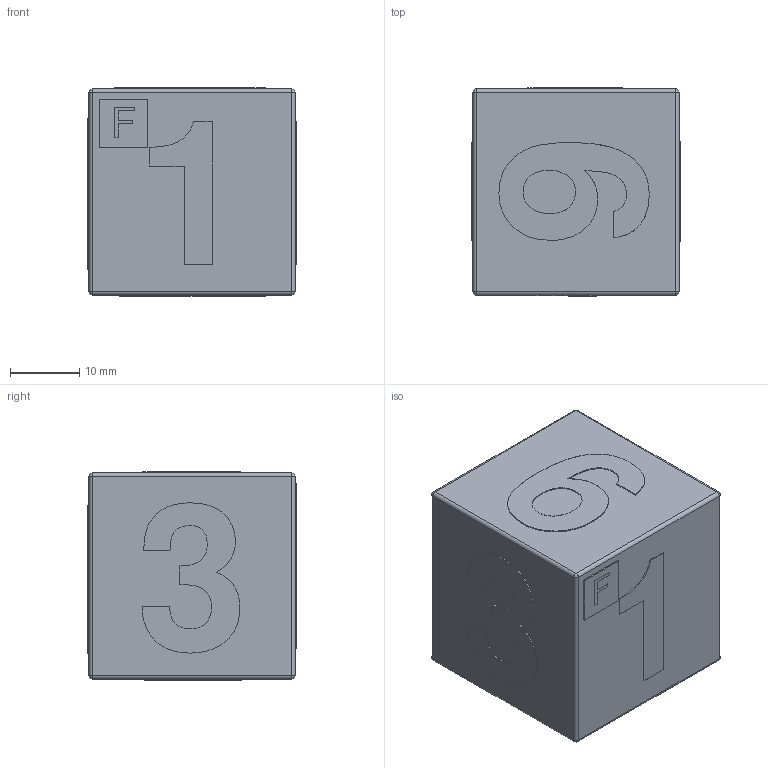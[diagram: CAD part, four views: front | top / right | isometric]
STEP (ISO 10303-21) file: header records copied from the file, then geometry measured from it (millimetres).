
FILE_DESCRIPTION(('Open CASCADE Model'),'2;1');
FILE_NAME('Open CASCADE Shape Model','2025-09-14T20:47:13',('Author'),( 'Open CASCADE'),'Open CASCADE STEP processor 7.8','Open CASCADE 7.8' ,'Unknown');
FILE_SCHEMA(('AUTOMOTIVE_DESIGN { 1 0 10303 214 1 1 1 1 }'));
Length unit declared in the file: millimetre
Products named in the file (20): 9be8c55c-91a3-11f0-88d2-1c1b0deae66b; 9be8c70a-91a3-11f0-88d2-1c1b0deae66b; 9be8c70a-91a3-11f0-88d2-1c1b0deae66b_part; 9beba420-91a3-11f0-88d2-1c1b0deae66b; 9beba420-91a3-11f0-88d2-1c1b0deae66b_part; 9becfbb8-91a3-11f0-88d2-1c1b0deae66b; 9becfbb8-91a3-11f0-88d2-1c1b0deae66b_part; 9bee8dc0-91a3-11f0-88d2-1c1b0deae66b; 9bee8dc0-91a3-11f0-88d2-1c1b0deae66b_part; 9bf0524a-91a3-11f0-88d2-1c1b0deae66b; 9bf0524a-91a3-11f0-88d2-1c1b0deae66b_part; 9bf2147c-91a3-11f0-88d2-1c1b0deae66b; 9bf2147c-91a3-11f0-88d2-1c1b0deae66b_part; 9bf3880c-91a3-11f0-88d2-1c1b0deae66b; 9bf3880c-91a3-11f0-88d2-1c1b0deae66b_part; 9bf6e63c-91a3-11f0-88d2-1c1b0deae66b; 9bf6e63c-91a3-11f0-88d2-1c1b0deae66b_part; 9bf6e768-91a3-11f0-88d2-1c1b0deae66b; 9bf6e768-91a3-11f0-88d2-1c1b0deae66b_part
Assembly tree (19 placements, depth 4):
  9be8c55c-91a3-11f0-88d2-1c1b0deae66b
    9be8c55c-91a3-11f0-88d2-1c1b0deae66b
      9be8c70a-91a3-11f0-88d2-1c1b0deae66b
        9be8c70a-91a3-11f0-88d2-1c1b0deae66b_part
      9beba420-91a3-11f0-88d2-1c1b0deae66b
        9beba420-91a3-11f0-88d2-1c1b0deae66b_part
      9becfbb8-91a3-11f0-88d2-1c1b0deae66b
        9becfbb8-91a3-11f0-88d2-1c1b0deae66b_part
      9bee8dc0-91a3-11f0-88d2-1c1b0deae66b
        9bee8dc0-91a3-11f0-88d2-1c1b0deae66b_part
      9bf0524a-91a3-11f0-88d2-1c1b0deae66b
        9bf0524a-91a3-11f0-88d2-1c1b0deae66b_part
      9bf2147c-91a3-11f0-88d2-1c1b0deae66b
        9bf2147c-91a3-11f0-88d2-1c1b0deae66b_part
      9bf3880c-91a3-11f0-88d2-1c1b0deae66b
        9bf3880c-91a3-11f0-88d2-1c1b0deae66b_part
      9bf6e63c-91a3-11f0-88d2-1c1b0deae66b
        9bf6e63c-91a3-11f0-88d2-1c1b0deae66b_part
      9bf6e768-91a3-11f0-88d2-1c1b0deae66b
        9bf6e768-91a3-11f0-88d2-1c1b0deae66b_part
Bounding box: 30 x 30 x 30 mm (x, y, z)
Volume: 26320.1 mm3; surface area: 7185 mm2
Topology: 9 solids, 9 shells, 193 faces, 509 edges, 326 vertices
Faces by surface type: plane 88, extrusion 85, cylinder 12, sphere 8
Entity records: 12837 total; most frequent: CARTESIAN_POINT 2924, DIRECTION 1496, VECTOR 1192, LINE 1107, ORIENTED_EDGE 1002, PCURVE 1002, DEFINITIONAL_REPRESENTATION 1002, EDGE_CURVE 501
